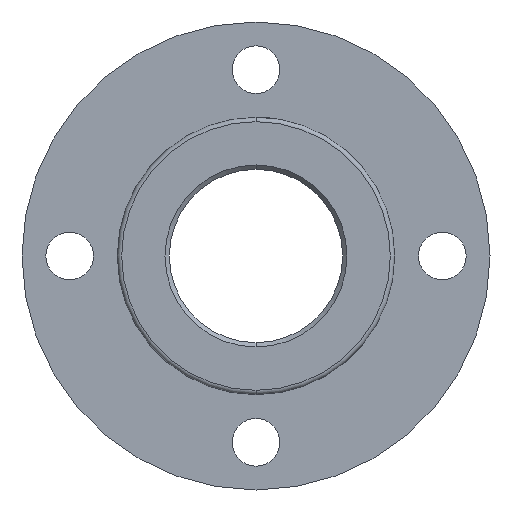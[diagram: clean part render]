
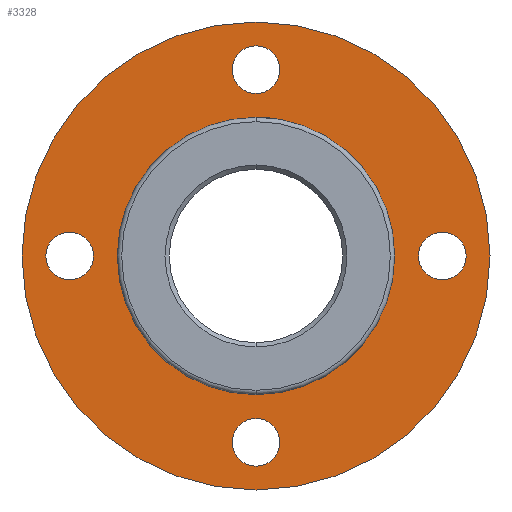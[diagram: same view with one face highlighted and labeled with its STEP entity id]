
A CAD part, front view. The second image highlights one B-rep face of the part: STEP entity #3328.
In plain terms, the highlighted planar face has unit normal (0, -1, 0).
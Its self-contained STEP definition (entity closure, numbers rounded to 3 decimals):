
#174 = CIRCLE ( 'NONE', #4170, 2.75 ) ;
#441 = VERTEX_POINT ( 'NONE', #4550 ) ;
#605 = AXIS2_PLACEMENT_3D ( 'NONE', #6179, #2225, #1773 ) ;
#626 = AXIS2_PLACEMENT_3D ( 'NONE', #7102, #4870, #2547 ) ;
#685 = VERTEX_POINT ( 'NONE', #5521 ) ;
#742 = VERTEX_POINT ( 'NONE', #1172 ) ;
#747 = DIRECTION ( 'NONE',  ( 0., 0., 1. ) ) ;
#771 = EDGE_LOOP ( 'NONE', ( #2919, #2133 ) ) ;
#792 = FACE_BOUND ( 'NONE', #5046, .T. ) ;
#794 = EDGE_CURVE ( 'NONE', #441, #3837, #3924, .T. ) ;
#877 = EDGE_CURVE ( 'NONE', #4927, #6791, #3817, .T. ) ;
#1028 = DIRECTION ( 'NONE',  ( 0., 0., 1. ) ) ;
#1074 = EDGE_LOOP ( 'NONE', ( #6412, #2387 ) ) ;
#1172 = CARTESIAN_POINT ( 'NONE',  ( 0., 0., -24.25 ) ) ;
#1190 = CIRCLE ( 'NONE', #626, 2.75 ) ;
#1255 = DIRECTION ( 'NONE',  ( 0., 0., 1. ) ) ;
#1315 = EDGE_CURVE ( 'NONE', #3837, #441, #3018, .T. ) ;
#1352 = CARTESIAN_POINT ( 'NONE',  ( -21.5, 0., 0. ) ) ;
#1453 = CARTESIAN_POINT ( 'NONE',  ( 0., 0., -18.75 ) ) ;
#1477 = CARTESIAN_POINT ( 'NONE',  ( 0., 0., 18.75 ) ) ;
#1621 = ORIENTED_EDGE ( 'NONE', *, *, #4202, .T. ) ;
#1773 = DIRECTION ( 'NONE',  ( 0., 0., 1. ) ) ;
#1800 = EDGE_CURVE ( 'NONE', #7084, #3940, #2398, .T. ) ;
#1858 = DIRECTION ( 'NONE',  ( 0., 0., 1. ) ) ;
#1913 = ORIENTED_EDGE ( 'NONE', *, *, #1800, .T. ) ;
#1914 = DIRECTION ( 'NONE',  ( 0., 0., 1. ) ) ;
#1930 = CARTESIAN_POINT ( 'NONE',  ( 21.5, 0., 2.75 ) ) ;
#2133 = ORIENTED_EDGE ( 'NONE', *, *, #877, .T. ) ;
#2146 = AXIS2_PLACEMENT_3D ( 'NONE', #5271, #2453, #747 ) ;
#2225 = DIRECTION ( 'NONE',  ( 0., 1., 0. ) ) ;
#2245 = ORIENTED_EDGE ( 'NONE', *, *, #2697, .T. ) ;
#2273 = ORIENTED_EDGE ( 'NONE', *, *, #5224, .T. ) ;
#2284 = DIRECTION ( 'NONE',  ( 0., 0., 1. ) ) ;
#2317 = EDGE_CURVE ( 'NONE', #3940, #7084, #4244, .T. ) ;
#2387 = ORIENTED_EDGE ( 'NONE', *, *, #5361, .T. ) ;
#2398 = CIRCLE ( 'NONE', #6289, 16. ) ;
#2453 = DIRECTION ( 'NONE',  ( 0., 1., 0. ) ) ;
#2542 = VERTEX_POINT ( 'NONE', #1930 ) ;
#2547 = DIRECTION ( 'NONE',  ( 0., 0., 1. ) ) ;
#2630 = CARTESIAN_POINT ( 'NONE',  ( -21.5, 0., 2.75 ) ) ;
#2654 = AXIS2_PLACEMENT_3D ( 'NONE', #6661, #3773, #6084 ) ;
#2670 = DIRECTION ( 'NONE',  ( 0., 0., 1. ) ) ;
#2694 = PLANE ( 'NONE',  #2654 ) ;
#2697 = EDGE_CURVE ( 'NONE', #685, #2542, #3719, .T. ) ;
#2771 = ORIENTED_EDGE ( 'NONE', *, *, #1315, .F. ) ;
#2808 = DIRECTION ( 'NONE',  ( 0., 1., 0. ) ) ;
#2919 = ORIENTED_EDGE ( 'NONE', *, *, #5575, .T. ) ;
#2976 = EDGE_CURVE ( 'NONE', #3284, #6390, #5987, .T. ) ;
#2998 = DIRECTION ( 'NONE',  ( 0., 1., 0. ) ) ;
#3006 = CARTESIAN_POINT ( 'NONE',  ( 0., 0., -27. ) ) ;
#3010 = FACE_BOUND ( 'NONE', #5011, .T. ) ;
#3018 = CIRCLE ( 'NONE', #6997, 27. ) ;
#3021 = DIRECTION ( 'NONE',  ( 0., 0., 1. ) ) ;
#3216 = EDGE_CURVE ( 'NONE', #6268, #742, #174, .T. ) ;
#3284 = VERTEX_POINT ( 'NONE', #1477 ) ;
#3328 = ADVANCED_FACE ( 'NONE', ( #3010, #6942, #792, #3624, #7122, #5461 ), #2694, .F. ) ;
#3513 = DIRECTION ( 'NONE',  ( 0., 0., 1. ) ) ;
#3568 = CARTESIAN_POINT ( 'NONE',  ( 0., 0., -21.5 ) ) ;
#3581 = CARTESIAN_POINT ( 'NONE',  ( 0., 0., 0. ) ) ;
#3624 = FACE_BOUND ( 'NONE', #5074, .T. ) ;
#3719 = CIRCLE ( 'NONE', #5778, 2.75 ) ;
#3773 = DIRECTION ( 'NONE',  ( 0., 1., 0. ) ) ;
#3813 = AXIS2_PLACEMENT_3D ( 'NONE', #3581, #6311, #6270 ) ;
#3817 = CIRCLE ( 'NONE', #4188, 2.75 ) ;
#3837 = VERTEX_POINT ( 'NONE', #3006 ) ;
#3902 = DIRECTION ( 'NONE',  ( 0., 1., 0. ) ) ;
#3924 = CIRCLE ( 'NONE', #3813, 27. ) ;
#3936 = CIRCLE ( 'NONE', #6754, 2.75 ) ;
#3940 = VERTEX_POINT ( 'NONE', #5728 ) ;
#4047 = CARTESIAN_POINT ( 'NONE',  ( 0., 0., 0. ) ) ;
#4069 = DIRECTION ( 'NONE',  ( 0., 1., 0. ) ) ;
#4149 = CARTESIAN_POINT ( 'NONE',  ( 0., 0., 0. ) ) ;
#4170 = AXIS2_PLACEMENT_3D ( 'NONE', #6744, #2808, #2284 ) ;
#4188 = AXIS2_PLACEMENT_3D ( 'NONE', #1352, #5851, #1914 ) ;
#4202 = EDGE_CURVE ( 'NONE', #2542, #685, #6110, .T. ) ;
#4244 = CIRCLE ( 'NONE', #605, 16. ) ;
#4323 = ORIENTED_EDGE ( 'NONE', *, *, #2976, .T. ) ;
#4550 = CARTESIAN_POINT ( 'NONE',  ( 0., 0., 27. ) ) ;
#4719 = CARTESIAN_POINT ( 'NONE',  ( 0., 0., -16. ) ) ;
#4870 = DIRECTION ( 'NONE',  ( 0., 1., 0. ) ) ;
#4927 = VERTEX_POINT ( 'NONE', #5540 ) ;
#5011 = EDGE_LOOP ( 'NONE', ( #6231, #1913 ) ) ;
#5046 = EDGE_LOOP ( 'NONE', ( #1621, #2245 ) ) ;
#5074 = EDGE_LOOP ( 'NONE', ( #2273, #4323 ) ) ;
#5169 = CARTESIAN_POINT ( 'NONE',  ( 21.5, 0., 0. ) ) ;
#5193 = AXIS2_PLACEMENT_3D ( 'NONE', #7223, #3902, #1028 ) ;
#5224 = EDGE_CURVE ( 'NONE', #6390, #3284, #5758, .T. ) ;
#5271 = CARTESIAN_POINT ( 'NONE',  ( 0., 0., 21.5 ) ) ;
#5361 = EDGE_CURVE ( 'NONE', #742, #6268, #3936, .T. ) ;
#5415 = CARTESIAN_POINT ( 'NONE',  ( 0., 0., 21.5 ) ) ;
#5461 = FACE_OUTER_BOUND ( 'NONE', #7129, .T. ) ;
#5521 = CARTESIAN_POINT ( 'NONE',  ( 21.5, 0., -2.75 ) ) ;
#5540 = CARTESIAN_POINT ( 'NONE',  ( -21.5, 0., -2.75 ) ) ;
#5575 = EDGE_CURVE ( 'NONE', #6791, #4927, #1190, .T. ) ;
#5664 = ORIENTED_EDGE ( 'NONE', *, *, #794, .F. ) ;
#5728 = CARTESIAN_POINT ( 'NONE',  ( 0., 0., 16. ) ) ;
#5758 = CIRCLE ( 'NONE', #2146, 2.75 ) ;
#5778 = AXIS2_PLACEMENT_3D ( 'NONE', #5169, #5828, #3513 ) ;
#5808 = DIRECTION ( 'NONE',  ( 0., 1., 0. ) ) ;
#5828 = DIRECTION ( 'NONE',  ( 0., 1., 0. ) ) ;
#5851 = DIRECTION ( 'NONE',  ( 0., 1., 0. ) ) ;
#5987 = CIRCLE ( 'NONE', #6315, 2.75 ) ;
#6084 = DIRECTION ( 'NONE',  ( 0., 0., 1. ) ) ;
#6110 = CIRCLE ( 'NONE', #5193, 2.75 ) ;
#6160 = CARTESIAN_POINT ( 'NONE',  ( 0., 0., 24.25 ) ) ;
#6179 = CARTESIAN_POINT ( 'NONE',  ( 0., 0., 0. ) ) ;
#6231 = ORIENTED_EDGE ( 'NONE', *, *, #2317, .T. ) ;
#6268 = VERTEX_POINT ( 'NONE', #1453 ) ;
#6270 = DIRECTION ( 'NONE',  ( 0., 0., 1. ) ) ;
#6289 = AXIS2_PLACEMENT_3D ( 'NONE', #4047, #4069, #1255 ) ;
#6311 = DIRECTION ( 'NONE',  ( 0., 1., 0. ) ) ;
#6315 = AXIS2_PLACEMENT_3D ( 'NONE', #5415, #6644, #2670 ) ;
#6390 = VERTEX_POINT ( 'NONE', #6160 ) ;
#6412 = ORIENTED_EDGE ( 'NONE', *, *, #3216, .T. ) ;
#6644 = DIRECTION ( 'NONE',  ( 0., 1., 0. ) ) ;
#6661 = CARTESIAN_POINT ( 'NONE',  ( 0., 0., 0. ) ) ;
#6744 = CARTESIAN_POINT ( 'NONE',  ( 0., 0., -21.5 ) ) ;
#6754 = AXIS2_PLACEMENT_3D ( 'NONE', #3568, #2998, #1858 ) ;
#6791 = VERTEX_POINT ( 'NONE', #2630 ) ;
#6942 = FACE_BOUND ( 'NONE', #1074, .T. ) ;
#6997 = AXIS2_PLACEMENT_3D ( 'NONE', #4149, #5808, #3021 ) ;
#7084 = VERTEX_POINT ( 'NONE', #4719 ) ;
#7102 = CARTESIAN_POINT ( 'NONE',  ( -21.5, 0., 0. ) ) ;
#7122 = FACE_BOUND ( 'NONE', #771, .T. ) ;
#7129 = EDGE_LOOP ( 'NONE', ( #2771, #5664 ) ) ;
#7223 = CARTESIAN_POINT ( 'NONE',  ( 21.5, 0., 0. ) ) ;
